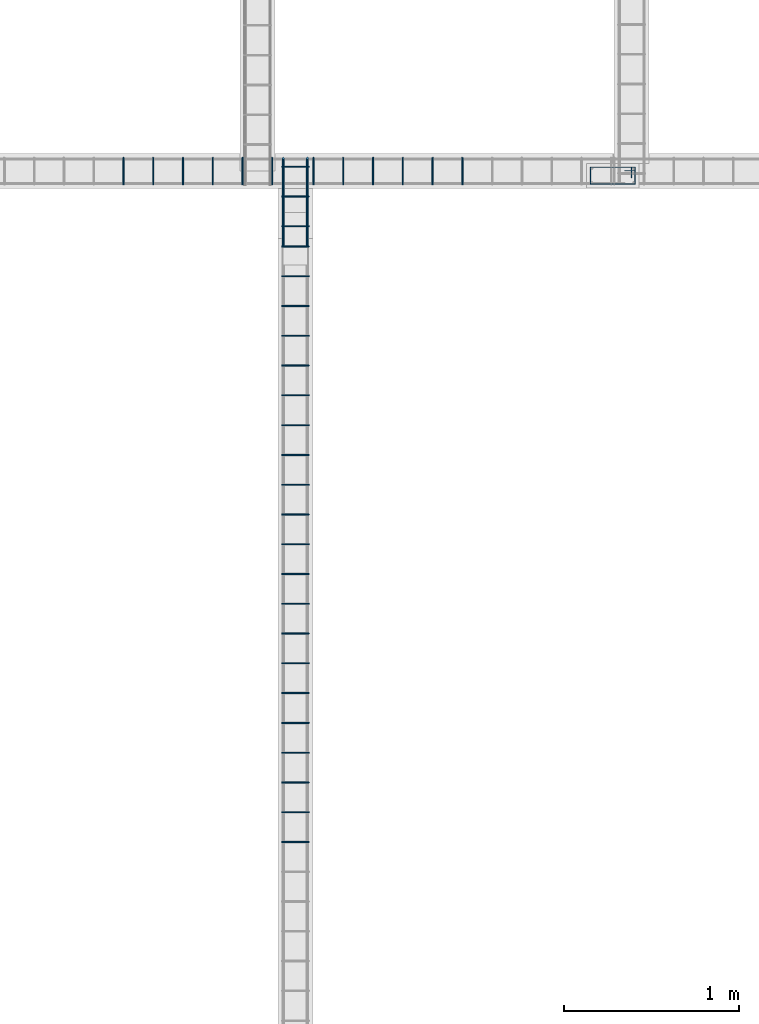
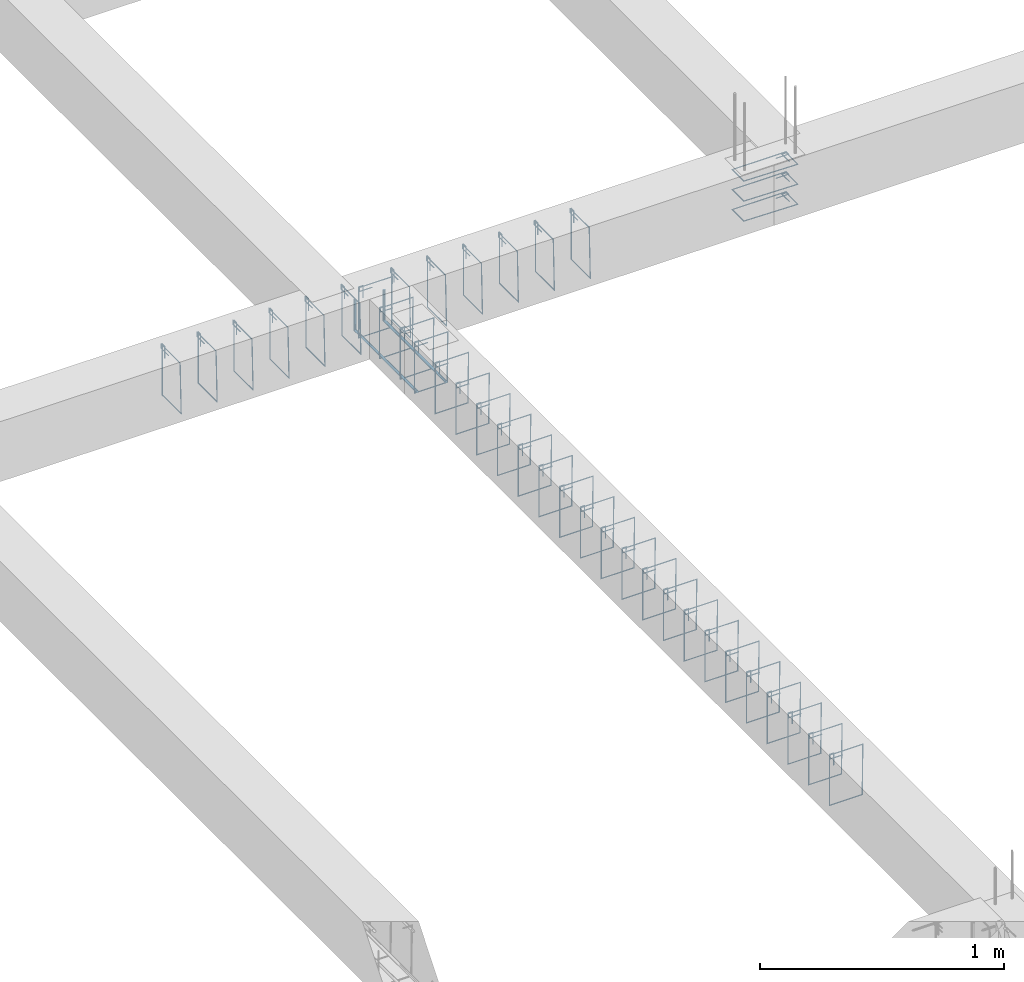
# One storey, part 68 of 150: 41 reinforcing bars.
"""IFC4 building model written with IfcOpenShell, lengths in centimetres."""

from ifc_helpers import new_model, entity, si_unit, derived_unit, frame, origin_with_axes, place, context, project, spatial, source, transform, mapped, element, save


model = new_model("IFC4")

# Units and contexts
model_context = context("Model", 3, precision=1e-05, world=origin_with_axes(), identifier="Body")
ifc_project = project(units=[si_unit("LENGTHUNIT", "METRE", prefix="CENTI"), si_unit("VOLUMEUNIT", "CUBIC_METRE"), si_unit("AREAUNIT", "SQUARE_METRE"), si_unit("POWERUNIT", "WATT"), si_unit("LUMINOUSFLUXUNIT", "LUMEN"), si_unit("ELECTRICCURRENTUNIT", "AMPERE"), si_unit("PRESSUREUNIT", "PASCAL", prefix="KILO"), si_unit("MASSUNIT", "GRAM", prefix="KILO"), si_unit("PLANEANGLEUNIT", "RADIAN"), derived_unit("VOLUMETRICFLOWRATEUNIT", [(si_unit("LENGTHUNIT", "METRE"), 3), (si_unit("TIMEUNIT", "SECOND"), -1)])], contexts=[model_context])

# Site, building, storey
site_placement = place(None, frame((-4000.0, 0.0, 0.0), z_axis=(0.0, 0.0, 1.0), x_axis=(1.0, 0.0, 0.0)))
site = spatial("IfcSite", under=ifc_project, at=site_placement, Name="PADRÃO")
building_placement = place(site_placement, frame((0.0, 0.0, -14.0)))
building = spatial("IfcBuilding", under=site, at=building_placement, Name="CRECHE PRÉ-ESCOLA TIPO 2")
placement = place(building_placement, origin_with_axes())
storey_placement = place(placement, frame((0.0, 0.0, 30.0), z_axis=(0.0, 0.0, 1.0), x_axis=(1.0, 0.0, 0.0)))
storey = spatial("IfcBuildingStorey", under=building, at=storey_placement, Name="VIGA BALDRAME", CompositionType="ELEMENT", Elevation=16.0)

# Reinforcing bars
shared_shape_1 = source(origin_with_axes(), model_context, "Body", "AdvancedSweptSolid", [
    entity("IfcSweptDiskSolid", entity("IfcCompositeCurve", [entity("IfcCompositeCurveSegment", "CONTINUOUS", True, entity("IfcPolyline", [entity("IfcCartesianPoint", [4.25, 21.75, 0.0]), entity("IfcCartesianPoint", [4.25, 27.75, 0.0])])), entity("IfcCompositeCurveSegment", "CONTINUOUS", True, entity("IfcPolyline", [entity("IfcCartesianPoint", [4.25, 27.75, 0.0]), entity("IfcCartesianPoint", [2.25, 27.75, 0.0])])), entity("IfcCompositeCurveSegment", "CONTINUOUS", True, entity("IfcPolyline", [entity("IfcCartesianPoint", [2.25, 27.75, 0.0]), entity("IfcCartesianPoint", [2.25, 2.25, 0.0])])), entity("IfcCompositeCurveSegment", "CONTINUOUS", True, entity("IfcPolyline", [entity("IfcCartesianPoint", [2.25, 2.25, 0.0]), entity("IfcCartesianPoint", [11.75, 2.25, 0.0])])), entity("IfcCompositeCurveSegment", "CONTINUOUS", True, entity("IfcPolyline", [entity("IfcCartesianPoint", [11.75, 2.25, 0.0]), entity("IfcCartesianPoint", [11.75, 27.75, -0.5])])), entity("IfcCompositeCurveSegment", "CONTINUOUS", True, entity("IfcPolyline", [entity("IfcCartesianPoint", [11.75, 27.75, -0.5]), entity("IfcCartesianPoint", [2.25, 27.75, -0.5])])), entity("IfcCompositeCurveSegment", "CONTINUOUS", True, entity("IfcPolyline", [entity("IfcCartesianPoint", [2.25, 27.75, -0.5]), entity("IfcCartesianPoint", [2.25, 25.75, -0.5])])), entity("IfcCompositeCurveSegment", "CONTINUOUS", True, entity("IfcPolyline", [entity("IfcCartesianPoint", [2.25, 25.75, -0.5]), entity("IfcCartesianPoint", [8.25, 25.75, -0.5])]))], False), 0.25),
])
for number, where, z_axis, x_axis, name in (
    (1, (670.0, 3204.49, -15.0), (0.0, 0.0, 1.0), (0.0, -1.0, 0.0), "P49 - Estribo"),
    (2, (670.0, 3204.49, -25.0), (0.0, 0.0, 1.0), (0.0, -1.0, 0.0), "P49 - Estribo"),
    (3, (670.0, 3204.49, -5.0), (0.0, 0.0, 1.0), (0.0, -1.0, 0.0), "P49 - Estribo"),
):
    element("IfcReinforcingBar", number, at=place(storey_placement, frame(where, z_axis=z_axis, x_axis=x_axis)), inside=storey, Name=name, BarLength=0.0, CrossSectionArea=1.9634954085e-05, NominalDiameter=0.5, PredefinedType="MAIN", context=model_context, shape_type="MappedRepresentation", body=[
        mapped(shared_shape_1, transform((0.0, 0.0, 0.0), scale=1.0)),
    ])
shared_shape_2 = source(origin_with_axes(), model_context, "Body", "AdvancedSweptSolid", [
    entity("IfcSweptDiskSolid", entity("IfcCompositeCurve", [entity("IfcCompositeCurveSegment", "CONTINUOUS", True, entity("IfcPolyline", [entity("IfcCartesianPoint", [2.0, -6.0, 0.0]), entity("IfcCartesianPoint", [2.0, 0.0, 0.0])])), entity("IfcCompositeCurveSegment", "CONTINUOUS", True, entity("IfcPolyline", [entity("IfcCartesianPoint", [2.0, 0.0, 0.0]), entity("IfcCartesianPoint", [0.0, 0.0, 0.0])])), entity("IfcCompositeCurveSegment", "CONTINUOUS", True, entity("IfcPolyline", [entity("IfcCartesianPoint", [0.0, 0.0, 0.0]), entity("IfcCartesianPoint", [0.0, -25.5, 0.0])])), entity("IfcCompositeCurveSegment", "CONTINUOUS", True, entity("IfcPolyline", [entity("IfcCartesianPoint", [0.0, -25.5, 0.0]), entity("IfcCartesianPoint", [15.5, -25.5, 0.0])])), entity("IfcCompositeCurveSegment", "CONTINUOUS", True, entity("IfcPolyline", [entity("IfcCartesianPoint", [15.5, -25.5, 0.0]), entity("IfcCartesianPoint", [15.5, 0.0, 0.5])])), entity("IfcCompositeCurveSegment", "CONTINUOUS", True, entity("IfcPolyline", [entity("IfcCartesianPoint", [15.5, 0.0, 0.5]), entity("IfcCartesianPoint", [0.0, 0.0, 0.5])])), entity("IfcCompositeCurveSegment", "CONTINUOUS", True, entity("IfcPolyline", [entity("IfcCartesianPoint", [0.0, 0.0, 0.5]), entity("IfcCartesianPoint", [0.0, -2.0, 0.5])])), entity("IfcCompositeCurveSegment", "CONTINUOUS", True, entity("IfcPolyline", [entity("IfcCartesianPoint", [0.0, -2.0, 0.5]), entity("IfcCartesianPoint", [6.0, -2.0, 0.5])]))], False), 0.25),
])
for number, where, z_axis, x_axis, name in (
    (4, (490.845, 3207.77, -2.25), (-1.0, 0.0, 0.0), (0.0, -1.0, 0.0), "V113 - Estribo"),
    (5, (473.845, 3207.77, -2.25), (-1.0, 0.0, 0.0), (0.0, -1.0, 0.0), "V113 - Estribo"),
    (6, (456.845, 3207.77, -2.25), (-1.0, 0.0, 0.0), (0.0, -1.0, 0.0), "V113 - Estribo"),
    (7, (439.845, 3207.77, -2.25), (-1.0, 0.0, 0.0), (0.0, -1.0, 0.0), "V113 - Estribo"),
    (8, (422.845, 3207.77, -2.25), (-1.0, 0.0, 0.0), (0.0, -1.0, 0.0), "V113 - Estribo"),
    (9, (405.845, 3207.77, -2.25), (-1.0, 0.0, 0.0), (0.0, -1.0, 0.0), "V113 - Estribo"),
):
    element("IfcReinforcingBar", number, at=place(storey_placement, frame(where, z_axis=z_axis, x_axis=x_axis)), inside=storey, Name=name, BarLength=0.0, CrossSectionArea=1.9634954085e-05, NominalDiameter=0.5, PredefinedType="MAIN", context=model_context, shape_type="MappedRepresentation", body=[
        mapped(shared_shape_2, transform((0.0, 0.0, 0.0), scale=1.0)),
    ])
shared_shape_3 = source(origin_with_axes(), model_context, "Body", "AdvancedSweptSolid", [
    entity("IfcSweptDiskSolid", entity("IfcCompositeCurve", [entity("IfcCompositeCurveSegment", "CONTINUOUS", True, entity("IfcPolyline", [entity("IfcCartesianPoint", [2.0, -6.0, 0.0]), entity("IfcCartesianPoint", [2.0, 0.0, 0.0])])), entity("IfcCompositeCurveSegment", "CONTINUOUS", True, entity("IfcPolyline", [entity("IfcCartesianPoint", [2.0, 0.0, 0.0]), entity("IfcCartesianPoint", [0.0, 0.0, 0.0])])), entity("IfcCompositeCurveSegment", "CONTINUOUS", True, entity("IfcPolyline", [entity("IfcCartesianPoint", [0.0, 0.0, 0.0]), entity("IfcCartesianPoint", [0.0, -25.5, 0.0])])), entity("IfcCompositeCurveSegment", "CONTINUOUS", True, entity("IfcPolyline", [entity("IfcCartesianPoint", [0.0, -25.5, 0.0]), entity("IfcCartesianPoint", [15.5, -25.5, 0.0])])), entity("IfcCompositeCurveSegment", "CONTINUOUS", True, entity("IfcPolyline", [entity("IfcCartesianPoint", [15.5, -25.5, 0.0]), entity("IfcCartesianPoint", [15.5, 0.0, 0.5])])), entity("IfcCompositeCurveSegment", "CONTINUOUS", True, entity("IfcPolyline", [entity("IfcCartesianPoint", [15.5, 0.0, 0.5]), entity("IfcCartesianPoint", [0.0, 0.0, 0.5])])), entity("IfcCompositeCurveSegment", "CONTINUOUS", True, entity("IfcPolyline", [entity("IfcCartesianPoint", [0.0, 0.0, 0.5]), entity("IfcCartesianPoint", [0.0, -2.0, 0.5])])), entity("IfcCompositeCurveSegment", "CONTINUOUS", True, entity("IfcPolyline", [entity("IfcCartesianPoint", [0.0, -2.0, 0.5]), entity("IfcCartesianPoint", [6.0, -2.0, 0.5])]))], False), 0.25),
])
for number, where, z_axis, x_axis, name in (
    (10, (599.345, 3207.77, -2.25), (-1.0, 0.0, 0.0), (0.0, -1.0, 0.0), "V113 - Estribo"),
    (11, (582.345, 3207.77, -2.25), (-1.0, 0.0, 0.0), (0.0, -1.0, 0.0), "V113 - Estribo"),
    (12, (565.345, 3207.77, -2.25), (-1.0, 0.0, 0.0), (0.0, -1.0, 0.0), "V113 - Estribo"),
    (13, (548.345, 3207.77, -2.25), (-1.0, 0.0, 0.0), (0.0, -1.0, 0.0), "V113 - Estribo"),
    (14, (531.345, 3207.77, -2.25), (-1.0, 0.0, 0.0), (0.0, -1.0, 0.0), "V113 - Estribo"),
    (15, (514.345, 3207.77, -2.25), (-1.0, 0.0, 0.0), (0.0, -1.0, 0.0), "V113 - Estribo"),
):
    element("IfcReinforcingBar", number, at=place(storey_placement, frame(where, z_axis=z_axis, x_axis=x_axis)), inside=storey, Name=name, BarLength=0.0, CrossSectionArea=1.9634954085e-05, NominalDiameter=0.5, PredefinedType="MAIN", context=model_context, shape_type="MappedRepresentation", body=[
        mapped(shared_shape_3, transform((0.0, 0.0, 0.0), scale=1.0)),
    ])
shared_shape_4 = source(origin_with_axes(), model_context, "Body", "AdvancedSweptSolid", [
    entity("IfcSweptDiskSolid", entity("IfcCompositeCurve", [entity("IfcCompositeCurveSegment", "CONTINUOUS", True, entity("IfcPolyline", [entity("IfcCartesianPoint", [2.0, -6.0, 0.0]), entity("IfcCartesianPoint", [2.0, 0.0, 0.0])])), entity("IfcCompositeCurveSegment", "CONTINUOUS", True, entity("IfcPolyline", [entity("IfcCartesianPoint", [2.0, 0.0, 0.0]), entity("IfcCartesianPoint", [0.0, 0.0, 0.0])])), entity("IfcCompositeCurveSegment", "CONTINUOUS", True, entity("IfcPolyline", [entity("IfcCartesianPoint", [0.0, 0.0, 0.0]), entity("IfcCartesianPoint", [0.0, -25.5, 0.0])])), entity("IfcCompositeCurveSegment", "CONTINUOUS", True, entity("IfcPolyline", [entity("IfcCartesianPoint", [0.0, -25.5, 0.0]), entity("IfcCartesianPoint", [15.5, -25.5, 0.0])])), entity("IfcCompositeCurveSegment", "CONTINUOUS", True, entity("IfcPolyline", [entity("IfcCartesianPoint", [15.5, -25.5, 0.0]), entity("IfcCartesianPoint", [15.5, 0.0, 0.5])])), entity("IfcCompositeCurveSegment", "CONTINUOUS", True, entity("IfcPolyline", [entity("IfcCartesianPoint", [15.5, 0.0, 0.5]), entity("IfcCartesianPoint", [0.0, 0.0, 0.5])])), entity("IfcCompositeCurveSegment", "CONTINUOUS", True, entity("IfcPolyline", [entity("IfcCartesianPoint", [0.0, 0.0, 0.5]), entity("IfcCartesianPoint", [0.0, -2.0, 0.5])])), entity("IfcCompositeCurveSegment", "CONTINUOUS", True, entity("IfcPolyline", [entity("IfcCartesianPoint", [0.0, -2.0, 0.5]), entity("IfcCartesianPoint", [6.0, -2.0, 0.5])]))], False), 0.25),
])
for number, where, z_axis, x_axis, name in (
    (16, (495.94, 3157.255, -2.25), (0.0, -1.0, 0.0), (1.0, 0.0, 0.0), "V171 - Estribo"),
    (17, (495.94, 3140.255, -2.25), (0.0, -1.0, 0.0), (1.0, 0.0, 0.0), "V171 - Estribo"),
    (18, (495.94, 3123.255, -2.25), (0.0, -1.0, 0.0), (1.0, 0.0, 0.0), "V171 - Estribo"),
    (19, (495.94, 3106.255, -2.25), (0.0, -1.0, 0.0), (1.0, 0.0, 0.0), "V171 - Estribo"),
    (20, (495.94, 3089.255, -2.25), (0.0, -1.0, 0.0), (1.0, 0.0, 0.0), "V171 - Estribo"),
    (21, (495.94, 3072.255, -2.25), (0.0, -1.0, 0.0), (1.0, 0.0, 0.0), "V171 - Estribo"),
    (22, (495.94, 3055.255, -2.25), (0.0, -1.0, 0.0), (1.0, 0.0, 0.0), "V171 - Estribo"),
    (23, (495.94, 3038.255, -2.25), (0.0, -1.0, 0.0), (1.0, 0.0, 0.0), "V171 - Estribo"),
    (24, (495.94, 3021.255, -2.25), (0.0, -1.0, 0.0), (1.0, 0.0, 0.0), "V171 - Estribo"),
    (25, (495.94, 3004.255, -2.25), (0.0, -1.0, 0.0), (1.0, 0.0, 0.0), "V171 - Estribo"),
    (26, (495.94, 2987.255, -2.25), (0.0, -1.0, 0.0), (1.0, 0.0, 0.0), "V171 - Estribo"),
    (27, (495.94, 2970.255, -2.25), (0.0, -1.0, 0.0), (1.0, 0.0, 0.0), "V171 - Estribo"),
    (28, (495.94, 2953.255, -2.25), (0.0, -1.0, 0.0), (1.0, 0.0, 0.0), "V171 - Estribo"),
    (29, (495.94, 2936.255, -2.25), (0.0, -1.0, 0.0), (1.0, 0.0, 0.0), "V171 - Estribo"),
    (30, (495.94, 2919.255, -2.25), (0.0, -1.0, 0.0), (1.0, 0.0, 0.0), "V171 - Estribo"),
    (31, (495.94, 2902.255, -2.25), (0.0, -1.0, 0.0), (1.0, 0.0, 0.0), "V171 - Estribo"),
    (32, (495.94, 2885.255, -2.25), (0.0, -1.0, 0.0), (1.0, 0.0, 0.0), "V171 - Estribo"),
    (33, (495.94, 2868.255, -2.25), (0.0, -1.0, 0.0), (1.0, 0.0, 0.0), "V171 - Estribo"),
    (34, (495.94, 2851.255, -2.25), (0.0, -1.0, 0.0), (1.0, 0.0, 0.0), "V171 - Estribo"),
    (35, (495.94, 2834.255, -2.25), (0.0, -1.0, 0.0), (1.0, 0.0, 0.0), "V171 - Estribo"),
    (36, (495.94, 2817.255, -2.25), (0.0, -1.0, 0.0), (1.0, 0.0, 0.0), "V171 - Estribo"),
):
    element("IfcReinforcingBar", number, at=place(storey_placement, frame(where, z_axis=z_axis, x_axis=x_axis)), inside=storey, Name=name, BarLength=0.0, CrossSectionArea=1.9634954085e-05, NominalDiameter=0.5, PredefinedType="MAIN", context=model_context, shape_type="MappedRepresentation", body=[
        mapped(shared_shape_4, transform((0.0, 0.0, 0.0), scale=1.0)),
    ])
shared_shape_5 = source(origin_with_axes(), model_context, "Body", "AdvancedSweptSolid", [
    entity("IfcSweptDiskSolid", entity("IfcCompositeCurve", [entity("IfcCompositeCurveSegment", "CONTINUOUS", True, entity("IfcPolyline", [entity("IfcCartesianPoint", [2.0, -6.0, 0.0]), entity("IfcCartesianPoint", [2.0, 0.0, 0.0])])), entity("IfcCompositeCurveSegment", "CONTINUOUS", True, entity("IfcPolyline", [entity("IfcCartesianPoint", [2.0, 0.0, 0.0]), entity("IfcCartesianPoint", [0.0, 0.0, 0.0])])), entity("IfcCompositeCurveSegment", "CONTINUOUS", True, entity("IfcPolyline", [entity("IfcCartesianPoint", [0.0, 0.0, 0.0]), entity("IfcCartesianPoint", [0.0, -25.5, 0.0])])), entity("IfcCompositeCurveSegment", "CONTINUOUS", True, entity("IfcPolyline", [entity("IfcCartesianPoint", [0.0, -25.5, 0.0]), entity("IfcCartesianPoint", [15.5, -25.5, 0.0])])), entity("IfcCompositeCurveSegment", "CONTINUOUS", True, entity("IfcPolyline", [entity("IfcCartesianPoint", [15.5, -25.5, 0.0]), entity("IfcCartesianPoint", [15.5, 0.0, 0.5])])), entity("IfcCompositeCurveSegment", "CONTINUOUS", True, entity("IfcPolyline", [entity("IfcCartesianPoint", [15.5, 0.0, 0.5]), entity("IfcCartesianPoint", [0.0, 0.0, 0.5])])), entity("IfcCompositeCurveSegment", "CONTINUOUS", True, entity("IfcPolyline", [entity("IfcCartesianPoint", [0.0, 0.0, 0.5]), entity("IfcCartesianPoint", [0.0, -2.0, 0.5])])), entity("IfcCompositeCurveSegment", "CONTINUOUS", True, entity("IfcPolyline", [entity("IfcCartesianPoint", [0.0, -2.0, 0.5]), entity("IfcCartesianPoint", [6.0, -2.0, 0.5])]))], False), 0.25),
])
for number, where, z_axis, x_axis, name in (
    (37, (495.94, 3202.76, -2.25), (0.0, -1.0, 0.0), (1.0, 0.0, 0.0), "V171 - Estribo"),
    (38, (495.94, 3168.76, -2.25), (0.0, -1.0, 0.0), (1.0, 0.0, 0.0), "V171 - Estribo"),
    (39, (495.94, 3185.76, -2.25), (0.0, -1.0, 0.0), (1.0, 0.0, 0.0), "V171 - Estribo"),
):
    element("IfcReinforcingBar", number, at=place(storey_placement, frame(where, z_axis=z_axis, x_axis=x_axis)), inside=storey, Name=name, BarLength=0.0, CrossSectionArea=1.9634954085e-05, NominalDiameter=0.5, PredefinedType="MAIN", context=model_context, shape_type="MappedRepresentation", body=[
        mapped(shared_shape_5, transform((0.0, 0.0, 0.0), scale=1.0)),
    ])
for number, where, z_axis, x_axis, name in (
    (40, (510.565, 3182.26292989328, -11.5851398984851), (0.0, 0.0, 1.0), (1.0, 0.0, 0.0), "V171 - Longitudinal inferior"),
    (41, (496.815, 3182.26292989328, -11.5851398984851), (0.0, 0.0, 1.0), (1.0, 0.0, 0.0), "V171 - Longitudinal inferior"),
):
    element("IfcReinforcingBar", number, at=place(storey_placement, frame(where, z_axis=z_axis, x_axis=x_axis)), inside=storey, Name=name, BarLength=0.0, CrossSectionArea=0.000122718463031, NominalDiameter=1.25, PredefinedType="MAIN", context=model_context, shape_type="AdvancedSweptSolid", body=[
        entity("IfcSweptDiskSolid", entity("IfcCompositeCurve", [entity("IfcCompositeCurveSegment", "CONTINUOUS", True, entity("IfcPolyline", [entity("IfcCartesianPoint", [0.0, -25.7629298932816, -15.2898601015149]), entity("IfcCartesianPoint", [0.0, 25.1320701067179, -15.2898601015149])])), entity("IfcCompositeCurveSegment", "CONTINUOUS", True, entity("IfcPolyline", [entity("IfcCartesianPoint", [0.0, 25.1320701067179, -15.2898601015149]), entity("IfcCartesianPoint", [0.0, 25.1320701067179, 0.0])]))], False), 0.625),
    ])

save(model, "model.ifc")
